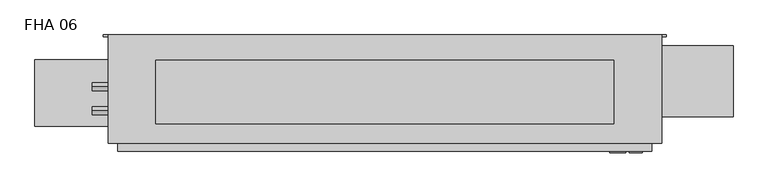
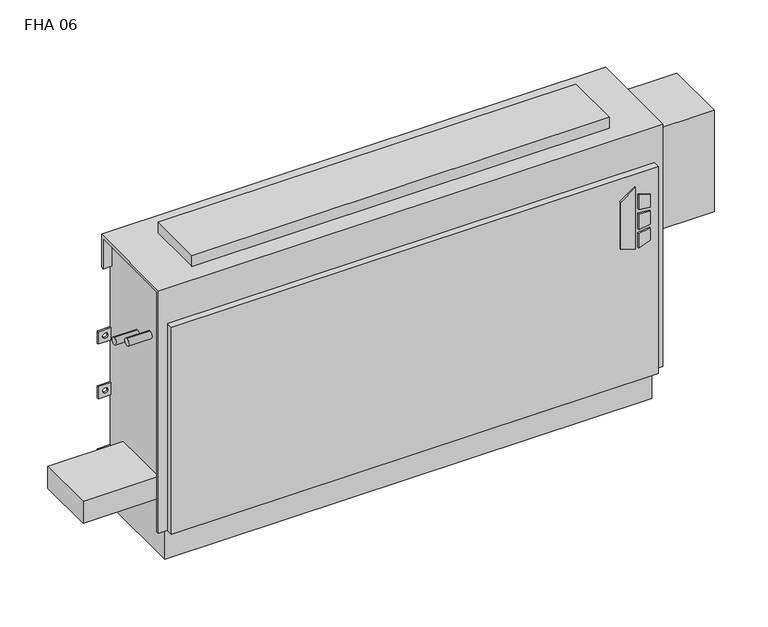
"""IFC4 building model written with IfcOpenShell, lengths in millimetres: proxy geometry, Vertical_Fan_Coil_Unit_-_FHA_-_IEC_-_2-Pipe_TS-FR_LH_2022 : FHA 06."""

from ifc_helpers import new_model, si_unit, point, frame, frame_2d, origin, place, context, project, spatial, polyline, circle_curve, trimmed, segment, composite_curve, outline, extrude, source, transform, mapped, element, save
from ifc_brep_helpers import plane_surface, revolved_surface, advanced_brep


def fha_06_a003a1de(model_context):
    return source(origin(), model_context, "Body", "SolidModel", [
        extrude(outline(polyline([(391.6086829, 601.7368862), (381.6606126, 633.9102728), (523.831537, 633.9102728), (500.8095309, 601.7368862), (391.6086829, 601.7368862)])), frame((0.0, 9.525, 0.0), z_axis=(0.0, 1.0, 0.0), x_axis=(0.0, 0.0, 1.0)), (0.0, 0.0, 1.0), 3.175),
        extrude(outline(polyline([(470.6079683, 640.6686058), (467.4055757, 666.75), (496.6344168, 666.75), (504.6988318, 640.6686058), (470.6079683, 640.6686058)])), frame((0.0, 9.525, 0.0), z_axis=(0.0, 1.0, 0.0), x_axis=(0.0, 0.0, 1.0)), (0.0, 0.0, 1.0), 3.175),
        extrude(outline(polyline([(418.7444414, 666.75), (415.0789404, 640.6686058), (381.6606126, 640.6686058), (390.2948498, 666.75), (418.7444414, 666.75)])), frame((0.0, 9.525, 0.0), z_axis=(0.0, 1.0, 0.0), x_axis=(0.0, 0.0, 1.0)), (0.0, 0.0, 1.0), 3.175),
        extrude(outline(polyline([(458.0596028, 666.75), (460.3414292, 640.6686058), (424.4038806, 640.6686058), (427.1451456, 666.75), (458.0596028, 666.75)])), frame((0.0, 9.525, 0.0), z_axis=(0.0, 1.0, 0.0), x_axis=(0.0, 0.0, 1.0)), (0.0, 0.0, 1.0), 3.175),
        extrude(outline(composite_curve([segment(trimmed(circle_curve(frame_2d((-444.5, 128.5875)), 9.525), [point((-454.025, 128.5875))], [point((-434.975, 128.5875))], False, "CARTESIAN"), True, "CONTINUOUS"), segment(trimmed(circle_curve(frame_2d((-444.5, 128.5875)), 9.525), [point((-434.975, 128.5875))], [point((-454.025, 128.5875))], False, "CARTESIAN"), True, "CONTINUOUS")], self_intersect=False)), frame((0.0, 0.0, 101.6), z_axis=(0.0, 0.0, 1.0), x_axis=(1.0, 0.0, 0.0)), (0.0, 0.0, 1.0), 25.4),
        extrude(outline(polyline([(-546.1, 61.9125), (-546.1, 195.2625), (-381.0, 195.2625), (-381.0, 61.9125), (-546.1, 61.9125)])), frame((0.0, 0.0, 127.0), z_axis=(0.0, 0.0, 1.0), x_axis=(1.0, 0.0, 0.0)), (0.0, 0.0, 1.0), 50.8),
        extrude(outline(polyline([(609.6, 193.675), (609.6, 66.675), (-304.8, 66.675), (-304.8, 193.675), (609.6, 193.675)])), frame((0.0, 0.0, 635.0), z_axis=(0.0, 0.0, 1.0), x_axis=(1.0, 0.0, 0.0)), (0.0, 0.0, 1.0), 25.4),
        extrude(outline(composite_curve([segment(trimmed(circle_curve(frame_2d((93.1926, 488.0102)), 7.9375), [point((93.1926, 495.9477))], [point((93.1926, 480.0727))], False, "CARTESIAN"), True, "CONTINUOUS"), segment(trimmed(circle_curve(frame_2d((93.1926, 488.0102)), 7.9375), [point((93.1926, 480.0727))], [point((93.1926, 495.9477))], False, "CARTESIAN"), True, "CONTINUOUS")], self_intersect=False)), frame((-431.8, 0.0, 0.0), z_axis=(1.0, 0.0, 0.0), x_axis=(0.0, 1.0, 0.0)), (0.0, 0.0, 1.0), 50.8),
        extrude(outline(composite_curve([segment(trimmed(circle_curve(frame_2d((141.3002, 461.3402)), 7.9375), [point((141.3002, 469.2777))], [point((141.3002, 453.4027))], False, "CARTESIAN"), True, "CONTINUOUS"), segment(trimmed(circle_curve(frame_2d((141.3002, 461.3402)), 7.9375), [point((141.3002, 453.4027))], [point((141.3002, 469.2777))], False, "CARTESIAN"), True, "CONTINUOUS")], self_intersect=False)), frame((-431.8, 0.0, 0.0), z_axis=(1.0, 0.0, 0.0), x_axis=(0.0, 1.0, 0.0)), (0.0, 0.0, 1.0), 50.8),
        extrude(outline(polyline([(847.725, 223.266), (847.725, 81.534), (685.8, 81.534), (685.8, 223.266), (847.725, 223.266)])), frame((0.0, 0.0, 349.25), z_axis=(0.0, 0.0, 1.0), x_axis=(1.0, 0.0, 0.0)), (0.0, 0.0, 1.0), 234.95),
        advanced_brep(
        [(704.85, 244.475, 635.0), (-400.05, 244.475, 635.0), (-400.05, 28.575, 635.0), (704.85, 28.575, 635.0), (-381.0, 244.475, 0.0), (685.8, 244.475, 0.0), (685.8, 38.1, 0.0), (-381.0, 38.1, 0.0), (704.85, 244.475, 558.8), (685.8, 244.475, 558.8), (685.8, 244.475, 414.3375), (714.375, 244.475, 414.3375), (714.375, 244.475, 385.7625), (685.8, 244.475, 385.7625), (685.8, 244.475, 287.3375), (714.375, 244.475, 287.3375), (714.375, 244.475, 258.7625), (685.8, 244.475, 258.7625), (685.8, 244.475, 141.2875), (714.375, 244.475, 141.2875), (714.375, 244.475, 112.7125), (685.8, 244.475, 112.7125), (-381.0, 244.475, 112.7125), (-409.575, 244.475, 112.7125), (-409.575, 244.475, 141.2875), (-381.0, 244.475, 141.2875), (-381.0, 244.475, 258.7625), (-409.575, 244.475, 258.7625), (-409.575, 244.475, 287.3375), (-381.0, 244.475, 287.3375), (-381.0, 244.475, 385.7625), (-409.575, 244.475, 385.7625), (-409.575, 244.475, 414.3375), (-381.0, 244.475, 414.3375), (-381.0, 244.475, 558.8), (-400.05, 244.475, 558.8), (704.0626, 244.475, 127.0), (692.9374, 244.475, 127.0), (-388.1374, 244.475, 127.0), (-399.2626, 244.475, 127.0), (704.0626, 244.475, 273.05), (692.9374, 244.475, 273.05), (-388.1374, 244.475, 273.05), (-399.2626, 244.475, 273.05), (704.0626, 244.475, 400.05), (692.9374, 244.475, 400.05), (-388.1374, 244.475, 400.05), (-399.2626, 244.475, 400.05), (-400.05, 238.125, 558.8), (-400.05, 238.125, 628.65), (-400.05, 34.925, 628.65), (-400.05, 34.925, 73.025), (-400.05, 28.575, 73.025), (685.8, 12.7, 552.45), (-381.0, 12.7, 552.45), (-381.0, 12.7, 73.025), (685.8, 12.7, 73.025), (704.85, 28.575, 73.025), (704.85, 34.925, 73.025), (704.85, 34.925, 628.65), (704.85, 238.125, 628.65), (704.85, 238.125, 558.8), (-381.0, 28.575, 73.025), (-381.0, 28.575, 552.45), (685.8, 28.575, 552.45), (685.8, 28.575, 73.025), (-381.0, 34.925, 73.025), (-381.0, 38.1, 73.025), (685.8, 38.1, 73.025), (685.8, 34.925, 73.025), (685.8, 241.3, 112.7125), (685.8, 241.3, 141.2875), (685.8, 241.3, 258.7625), (685.8, 241.3, 287.3375), (685.8, 241.3, 385.7625), (685.8, 241.3, 414.3375), (685.8, 238.125, 558.8), (685.8, 238.125, 628.65), (685.8, 34.925, 628.65), (-381.0, 34.925, 628.65), (-381.0, 238.125, 628.65), (-381.0, 238.125, 558.8), (-381.0, 241.3, 414.3375), (-381.0, 241.3, 385.7625), (-381.0, 241.3, 287.3375), (-381.0, 241.3, 258.7625), (-381.0, 241.3, 141.2875), (-381.0, 241.3, 112.7125), (714.375, 241.3, 112.7125), (714.375, 241.3, 141.2875), (692.9374, 241.3, 127.0), (704.0626, 241.3, 127.0), (714.375, 241.3, 258.7625), (714.375, 241.3, 287.3375), (692.9374, 241.3, 273.05), (704.0626, 241.3, 273.05), (714.375, 241.3, 385.7625), (714.375, 241.3, 414.3375), (692.9374, 241.3, 400.05), (704.0626, 241.3, 400.05), (-409.575, 241.3, 141.2875), (-409.575, 241.3, 112.7125), (-399.2626, 241.3, 127.0), (-388.1374, 241.3, 127.0), (-409.575, 241.3, 287.3375), (-409.575, 241.3, 258.7625), (-399.2626, 241.3, 273.05), (-388.1374, 241.3, 273.05), (-409.575, 241.3, 414.3375), (-409.575, 241.3, 385.7625), (-399.2626, 241.3, 400.05), (-388.1374, 241.3, 400.05)],
        [
            (0, 1),
            (1, 2),
            (2, 3),
            (3, 0),
            (4, 5),
            (5, 6),
            (6, 7),
            (7, 4),
            (0, 8),
            (8, 9),
            (9, 10),
            (10, 11),
            (11, 12),
            (12, 13),
            (13, 14),
            (14, 15),
            (15, 16),
            (16, 17),
            (17, 18),
            (18, 19),
            (19, 20),
            (20, 21),
            (21, 5),
            (4, 22),
            (22, 23),
            (23, 24),
            (24, 25),
            (25, 26),
            (26, 27),
            (27, 28),
            (28, 29),
            (29, 30),
            (30, 31),
            (31, 32),
            (32, 33),
            (33, 34),
            (34, 35),
            (35, 1),
            (36, 37, circle_curve(frame((698.5, 244.475, 127.0), z_axis=(0.0, -1.0, 0.0), x_axis=(-1.0, 0.0, 0.0)), 5.5626)),
            (37, 36, circle_curve(frame((698.5, 244.475, 127.0), z_axis=(0.0, -1.0, 0.0), x_axis=(-1.0, 0.0, 0.0)), 5.5626)),
            (38, 39, circle_curve(frame((-393.7, 244.475, 127.0), z_axis=(0.0, -1.0, 0.0), x_axis=(-1.0, 0.0, 0.0)), 5.5626)),
            (39, 38, circle_curve(frame((-393.7, 244.475, 127.0), z_axis=(0.0, -1.0, 0.0), x_axis=(-1.0, 0.0, 0.0)), 5.5626)),
            (40, 41, circle_curve(frame((698.5, 244.475, 273.05), z_axis=(0.0, -1.0, 0.0), x_axis=(-1.0, 0.0, 0.0)), 5.5626)),
            (41, 40, circle_curve(frame((698.5, 244.475, 273.05), z_axis=(0.0, -1.0, 0.0), x_axis=(-1.0, 0.0, 0.0)), 5.5626)),
            (42, 43, circle_curve(frame((-393.7, 244.475, 273.05), z_axis=(0.0, -1.0, 0.0), x_axis=(-1.0, 0.0, 0.0)), 5.5626)),
            (43, 42, circle_curve(frame((-393.7, 244.475, 273.05), z_axis=(0.0, -1.0, 0.0), x_axis=(-1.0, 0.0, 0.0)), 5.5626)),
            (44, 45, circle_curve(frame((698.5, 244.475, 400.05), z_axis=(0.0, -1.0, 0.0), x_axis=(-1.0, 0.0, 0.0)), 5.5626)),
            (45, 44, circle_curve(frame((698.5, 244.475, 400.05), z_axis=(0.0, -1.0, 0.0), x_axis=(-1.0, 0.0, 0.0)), 5.5626)),
            (46, 47, circle_curve(frame((-393.7, 244.475, 400.05), z_axis=(0.0, -1.0, 0.0), x_axis=(-1.0, 0.0, 0.0)), 5.5626)),
            (47, 46, circle_curve(frame((-393.7, 244.475, 400.05), z_axis=(0.0, -1.0, 0.0), x_axis=(-1.0, 0.0, 0.0)), 5.5626)),
            (35, 48),
            (48, 49),
            (49, 50),
            (50, 51),
            (51, 52),
            (52, 2),
            (53, 54),
            (54, 55),
            (55, 56),
            (56, 53),
            (3, 57),
            (57, 58),
            (58, 59),
            (59, 60),
            (60, 61),
            (61, 8),
            (52, 62),
            (62, 63),
            (63, 64),
            (64, 65),
            (65, 57),
            (53, 64),
            (63, 54),
            (55, 62),
            (51, 66),
            (66, 67),
            (67, 68),
            (68, 69),
            (69, 58),
            (65, 56),
            (6, 68),
            (67, 7),
            (21, 70),
            (70, 71),
            (71, 18),
            (17, 72),
            (72, 73),
            (73, 14),
            (13, 74),
            (74, 75),
            (75, 10),
            (9, 76),
            (76, 77),
            (77, 78),
            (78, 69),
            (66, 79),
            (79, 80),
            (80, 81),
            (81, 34),
            (33, 82),
            (82, 83),
            (83, 30),
            (29, 84),
            (84, 85),
            (85, 26),
            (25, 86),
            (86, 87),
            (87, 22),
            (76, 61),
            (60, 77),
            (78, 59),
            (50, 79),
            (81, 48),
            (80, 49),
            (70, 88),
            (88, 89),
            (89, 71),
            (90, 91, circle_curve(frame((698.5, 241.3, 127.0), z_axis=(0.0, 1.0, 0.0), x_axis=(-1.0, 0.0, 0.0)), 5.5626)),
            (91, 90, circle_curve(frame((698.5, 241.3, 127.0), z_axis=(0.0, 1.0, 0.0), x_axis=(-1.0, 0.0, 0.0)), 5.5626)),
            (92, 93),
            (93, 73),
            (72, 92),
            (94, 95, circle_curve(frame((698.5, 241.3, 273.05), z_axis=(0.0, 1.0, 0.0), x_axis=(-1.0, 0.0, 0.0)), 5.5626)),
            (95, 94, circle_curve(frame((698.5, 241.3, 273.05), z_axis=(0.0, 1.0, 0.0), x_axis=(-1.0, 0.0, 0.0)), 5.5626)),
            (96, 97),
            (97, 75),
            (74, 96),
            (98, 99, circle_curve(frame((698.5, 241.3, 400.05), z_axis=(0.0, 1.0, 0.0), x_axis=(-1.0, 0.0, 0.0)), 5.5626)),
            (99, 98, circle_curve(frame((698.5, 241.3, 400.05), z_axis=(0.0, 1.0, 0.0), x_axis=(-1.0, 0.0, 0.0)), 5.5626)),
            (100, 101),
            (101, 87),
            (86, 100),
            (102, 103, circle_curve(frame((-393.7, 241.3, 127.0), z_axis=(0.0, 1.0, 0.0), x_axis=(-1.0, 0.0, 0.0)), 5.5626)),
            (103, 102, circle_curve(frame((-393.7, 241.3, 127.0), z_axis=(0.0, 1.0, 0.0), x_axis=(-1.0, 0.0, 0.0)), 5.5626)),
            (84, 104),
            (104, 105),
            (105, 85),
            (106, 107, circle_curve(frame((-393.7, 241.3, 273.05), z_axis=(0.0, 1.0, 0.0), x_axis=(-1.0, 0.0, 0.0)), 5.5626)),
            (107, 106, circle_curve(frame((-393.7, 241.3, 273.05), z_axis=(0.0, 1.0, 0.0), x_axis=(-1.0, 0.0, 0.0)), 5.5626)),
            (108, 109),
            (109, 83),
            (82, 108),
            (110, 111, circle_curve(frame((-393.7, 241.3, 400.05), z_axis=(0.0, 1.0, 0.0), x_axis=(-1.0, 0.0, 0.0)), 5.5626)),
            (111, 110, circle_curve(frame((-393.7, 241.3, 400.05), z_axis=(0.0, 1.0, 0.0), x_axis=(-1.0, 0.0, 0.0)), 5.5626)),
            (89, 19),
            (88, 20),
            (16, 92),
            (93, 15),
            (12, 96),
            (97, 11),
            (24, 100),
            (101, 23),
            (105, 27),
            (104, 28),
            (32, 108),
            (109, 31),
            (90, 37),
            (36, 91),
            (102, 39),
            (38, 103),
            (94, 41),
            (40, 95),
            (106, 43),
            (42, 107),
            (98, 45),
            (44, 99),
            (110, 47),
            (46, 111),
        ],
        [
            plane_surface(frame((-400.05, 244.475, 635.0), z_axis=(0.0, 0.0, 1.0), x_axis=(-1.0, 0.0, 0.0))),
            plane_surface(frame((-400.05, 244.475, 0.0), z_axis=(0.0, 0.0, -1.0), x_axis=(1.0, 0.0, 0.0))),
            plane_surface(frame((704.85, 244.475, 635.0), z_axis=(0.0, 1.0, 0.0), x_axis=(0.0, 0.0, -1.0))),
            plane_surface(frame((-400.05, 244.475, 635.0), z_axis=(-1.0, 0.0, 0.0), x_axis=(0.0, 0.0, -1.0))),
            plane_surface(frame((-400.05, 12.7, 635.0), z_axis=(0.0, -1.0, 0.0), x_axis=(0.0, 0.0, -1.0))),
            plane_surface(frame((704.85, 12.7, 635.0), z_axis=(1.0, 0.0, 0.0), x_axis=(0.0, 0.0, -1.0))),
            plane_surface(frame((-654.05, 28.575, 635.0), z_axis=(0.0, -1.0, 0.0), x_axis=(1.0, 0.0, 0.0))),
            plane_surface(frame((-654.05, 28.575, 552.45), z_axis=(0.0, 0.0, 1.0), x_axis=(1.0, 0.0, 0.0))),
            plane_surface(frame((-400.05, 12.7, 73.025), z_axis=(0.0, 0.0, -1.0), x_axis=(1.0, 0.0, 0.0))),
            plane_surface(frame((-400.05, 38.1, 73.025), z_axis=(0.0, -1.0, 0.0), x_axis=(1.0, 0.0, 0.0))),
            plane_surface(frame((685.8, 28.575, 73.025), z_axis=(1.0, 0.0, 0.0), x_axis=(0.0, -1.0, 0.0))),
            plane_surface(frame((-381.0, 28.575, 552.45), z_axis=(-1.0, 0.0, 0.0), x_axis=(0.0, -1.0, 0.0))),
            plane_surface(frame((685.8, 244.475, 0.0), z_axis=(1.0, 0.0, 0.0), x_axis=(0.0, -1.0, 0.0))),
            plane_surface(frame((-381.0, 244.475, 73.025), z_axis=(-1.0, 0.0, 0.0), x_axis=(0.0, -1.0, 0.0))),
            plane_surface(frame((685.8, 238.125, 628.65), z_axis=(0.0, -1.0, 0.0), x_axis=(1.0, 0.0, 0.0))),
            plane_surface(frame((685.8, 238.125, 558.8), z_axis=(0.0, 0.0, -1.0), x_axis=(1.0, 0.0, 0.0))),
            plane_surface(frame((685.8, 34.925, 73.025), z_axis=(0.0, 1.0, 0.0), x_axis=(1.0, 0.0, 0.0))),
            plane_surface(frame((685.8, 34.925, 628.65), z_axis=(0.0, 0.0, -1.0), x_axis=(1.0, 0.0, 0.0))),
            plane_surface(frame((-381.0, 34.925, 628.65), z_axis=(0.0, 1.0, 0.0), x_axis=(-1.0, 0.0, 0.0))),
            plane_surface(frame((-381.0, 244.475, 558.8), z_axis=(0.0, 0.0, -1.0), x_axis=(-1.0, 0.0, 0.0))),
            plane_surface(frame((-381.0, 238.125, 558.8), z_axis=(0.0, -1.0, 0.0), x_axis=(-1.0, 0.0, 0.0))),
            plane_surface(frame((-381.0, 238.125, 628.65), z_axis=(0.0, 0.0, -1.0), x_axis=(-1.0, 0.0, 0.0))),
            plane_surface(frame((714.375, 241.3, 141.2875), z_axis=(0.0, -1.0, 0.0), x_axis=(-1.0, 0.0, 0.0))),
            plane_surface(frame((685.8, 244.475, 141.2875), z_axis=(0.0, 0.0, 1.0), x_axis=(0.0, -1.0, 0.0))),
            plane_surface(frame((714.375, 244.475, 141.2875), z_axis=(1.0, 0.0, 0.0), x_axis=(0.0, -1.0, 0.0))),
            plane_surface(frame((714.375, 244.475, 112.7125), z_axis=(0.0, 0.0, -1.0), x_axis=(0.0, -1.0, 0.0))),
            plane_surface(frame((714.375, 244.475, 258.7625), z_axis=(0.0, 0.0, -1.0), x_axis=(0.0, -1.0, 0.0))),
            plane_surface(frame((685.8, 244.475, 287.3375), z_axis=(0.0, 0.0, 1.0), x_axis=(0.0, -1.0, 0.0))),
            plane_surface(frame((714.375, 244.475, 287.3375), z_axis=(1.0, 0.0, 0.0), x_axis=(0.0, -1.0, 0.0))),
            plane_surface(frame((714.375, 244.475, 385.7625), z_axis=(0.0, 0.0, -1.0), x_axis=(0.0, -1.0, 0.0))),
            plane_surface(frame((685.8, 244.475, 414.3375), z_axis=(0.0, 0.0, 1.0), x_axis=(0.0, -1.0, 0.0))),
            plane_surface(frame((714.375, 244.475, 414.3375), z_axis=(1.0, 0.0, 0.0), x_axis=(0.0, -1.0, 0.0))),
            plane_surface(frame((-409.575, 244.475, 141.2875), z_axis=(0.0, 0.0, 1.0), x_axis=(0.0, -1.0, 0.0))),
            plane_surface(frame((-381.0, 244.475, 112.7125), z_axis=(0.0, 0.0, -1.0), x_axis=(0.0, -1.0, 0.0))),
            plane_surface(frame((-409.575, 244.475, 112.7125), z_axis=(-1.0, 0.0, 0.0), x_axis=(0.0, -1.0, 0.0))),
            plane_surface(frame((-381.0, 244.475, 258.7625), z_axis=(0.0, 0.0, -1.0), x_axis=(0.0, -1.0, 0.0))),
            plane_surface(frame((-409.575, 244.475, 258.7625), z_axis=(-1.0, 0.0, 0.0), x_axis=(0.0, -1.0, 0.0))),
            plane_surface(frame((-409.575, 244.475, 287.3375), z_axis=(0.0, 0.0, 1.0), x_axis=(0.0, -1.0, 0.0))),
            plane_surface(frame((-409.575, 244.475, 414.3375), z_axis=(0.0, 0.0, 1.0), x_axis=(0.0, -1.0, 0.0))),
            plane_surface(frame((-381.0, 244.475, 385.7625), z_axis=(0.0, 0.0, -1.0), x_axis=(0.0, -1.0, 0.0))),
            plane_surface(frame((-409.575, 244.475, 385.7625), z_axis=(-1.0, 0.0, 0.0), x_axis=(0.0, -1.0, 0.0))),
            revolved_surface(polyline([(692.9374, 241.3, 127.0), (692.9374, 244.475, 127.0)]), (698.5, 244.475, 127.0), (0.0, -1.0, 0.0)),
            revolved_surface(polyline([(-399.26259999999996, 241.3, 127.0), (-399.26259999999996, 244.475, 127.0)]), (-393.7, 244.475, 127.0), (0.0, -1.0, 0.0)),
            revolved_surface(polyline([(692.9374, 241.3, 273.05), (692.9374, 244.475, 273.05)]), (698.5, 244.475, 273.05), (0.0, -1.0, 0.0)),
            revolved_surface(polyline([(-399.26259999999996, 241.3, 273.05), (-399.26259999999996, 244.475, 273.05)]), (-393.7, 244.475, 273.05), (0.0, -1.0, 0.0)),
            revolved_surface(polyline([(692.9374, 241.3, 400.05), (692.9374, 244.475, 400.05)]), (698.5, 244.475, 400.05), (0.0, -1.0, 0.0)),
            revolved_surface(polyline([(-399.26259999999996, 241.3, 400.05), (-399.26259999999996, 244.475, 400.05)]), (-393.7, 244.475, 400.05), (0.0, -1.0, 0.0)),
        ],
        [
            (0, [[1, 2, 3, 4]]),
            (1, [[5, 6, 7, 8]]),
            (2, [[-1, 9, 10, 11, 12, 13, 14, 15, 16, 17, 18, 19, 20, 21, 22, 23, -5, 24, 25, 26, 27, 28, 29, 30, 31, 32, 33, 34, 35, 36, 37, 38], [39, 40], [41, 42], [43, 44], [45, 46], [47, 48], [49, 50]]),
            (3, [[-2, -38, 51, 52, 53, 54, 55, 56]]),
            (4, [[57, 58, 59, 60]]),
            (5, [[-4, 61, 62, 63, 64, 65, 66, -9]]),
            (6, [[-3, -56, 67, 68, 69, 70, 71, -61]]),
            (7, [[-57, 72, -69, 73]]),
            (8, [[-59, 74, -67, -55, 75, 76, 77, 78, 79, -62, -71, 80]]),
            (9, [[-7, 81, -77, 82]]),
            (10, [[-70, -72, -60, -80]]),
            (11, [[-68, -74, -58, -73]]),
            (12, [[-6, -23, 83, 84, 85, -19, 86, 87, 88, -15, 89, 90, 91, -11, 92, 93, 94, 95, -78, -81]]),
            (13, [[-8, -82, -76, 96, 97, 98, 99, -36, 100, 101, 102, -32, 103, 104, 105, -28, 106, 107, 108, -24]]),
            (14, [[-93, 109, -65, 110]]),
            (15, [[-92, -10, -66, -109]]),
            (16, [[-95, 111, -63, -79]]),
            (17, [[-94, -110, -64, -111]]),
            (18, [[-96, -75, -54, 112]]),
            (19, [[-99, 113, -51, -37]]),
            (20, [[-98, 114, -52, -113]]),
            (21, [[-97, -112, -53, -114]]),
            (22, [[115, 116, 117, -84], [118, 119]]),
            (22, [[120, 121, -87, 122], [123, 124]]),
            (22, [[125, 126, -90, 127], [128, 129]]),
            (22, [[130, 131, -107, 132], [133, 134]]),
            (22, [[135, 136, 137, -104], [138, 139]]),
            (22, [[140, 141, -101, 142], [143, 144]]),
            (23, [[-117, 145, -20, -85]]),
            (24, [[-116, 146, -21, -145]]),
            (25, [[-115, -83, -22, -146]]),
            (26, [[-122, -86, -18, 147]]),
            (27, [[-121, 148, -16, -88]]),
            (28, [[-120, -147, -17, -148]]),
            (29, [[-127, -89, -14, 149]]),
            (30, [[-126, 150, -12, -91]]),
            (31, [[-125, -149, -13, -150]]),
            (32, [[-132, -106, -27, 151]]),
            (33, [[-131, 152, -25, -108]]),
            (34, [[-130, -151, -26, -152]]),
            (35, [[-137, 153, -29, -105]]),
            (36, [[-136, 154, -30, -153]]),
            (37, [[-135, -103, -31, -154]]),
            (38, [[-142, -100, -35, 155]]),
            (39, [[-141, 156, -33, -102]]),
            (40, [[-140, -155, -34, -156]]),
            (41, [[157, -39, 158, -118]]),
            (41, [[-157, -119, -158, -40]]),
            (42, [[159, -41, 160, -133]]),
            (42, [[-159, -134, -160, -42]]),
            (43, [[161, -43, 162, -123]]),
            (43, [[-161, -124, -162, -44]]),
            (44, [[163, -45, 164, -138]]),
            (44, [[-163, -139, -164, -46]]),
            (45, [[165, -47, 166, -128]]),
            (45, [[-165, -129, -166, -48]]),
            (46, [[167, -49, 168, -143]]),
            (46, [[-167, -144, -168, -50]]),
        ],
    ),
    ])


if __name__ == "__main__":
    model = new_model("IFC4")
    model_context = context("Model", 3, world=origin())
    ifc_project = project(units=[si_unit("LENGTHUNIT", "METRE", prefix="MILLI")], contexts=[model_context])
    site = spatial("IfcSite", under=ifc_project)
    building = spatial("IfcBuilding", under=site)
    placement = place(None, origin())
    fha_06_shape = fha_06_a003a1de(model_context)
    element("IfcBuildingElementProxy", 1, Name="Vertical_Fan_Coil_Unit_-_FHA_-_IEC_-_2-Pipe_TS-FR_LH_2022 : FHA 06", ObjectType="Vertical_Fan_Coil_Unit_-_FHA_-_IEC_-_2-Pipe_TS-FR_LH_2022 : FHA 06", at=placement, inside=building, context=model_context, shape_type="MappedRepresentation", body=[
        mapped(fha_06_shape, transform((0.0, 0.0, 0.0), x_axis=(1.0, 0.0, 0.0), y_axis=(0.0, 1.0, 0.0), z_axis=(0.0, 0.0, 1.0))),
    ])
    save(model, "model.ifc")
